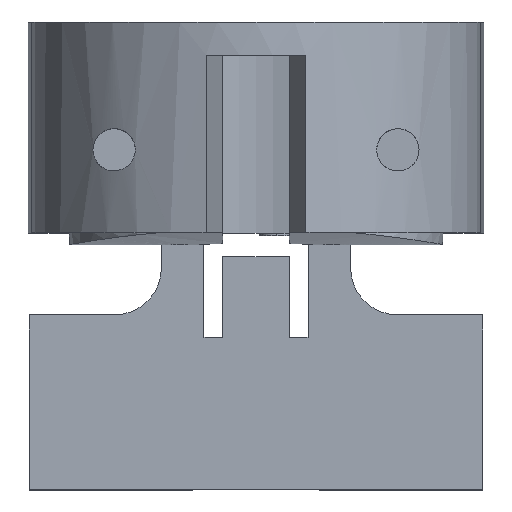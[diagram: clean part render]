
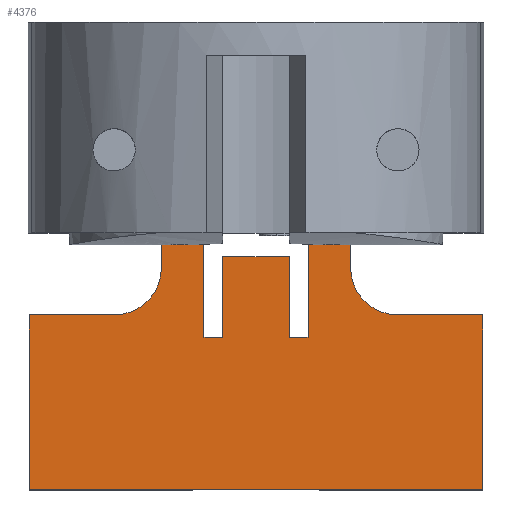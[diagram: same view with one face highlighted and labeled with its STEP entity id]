
A CAD part, top view. The second image highlights one B-rep face of the part: STEP entity #4376.
In plain terms, the highlighted planar face has unit normal (0, 0, 1).
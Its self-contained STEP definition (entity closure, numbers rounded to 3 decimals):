
#181=CARTESIAN_POINT(' ',(2.2,0.,-12.491));
#182=VERTEX_POINT(' ',#181);
#196=CARTESIAN_POINT(' ',(2.2,0.,-12.491));
#201=DIRECTION(' ',(1.,0.,0.));
#206=VECTOR(' ',#201,1.);
#211=LINE('',#196,#206);
#216=CARTESIAN_POINT(' ',(4.,0.,-12.491));
#217=VERTEX_POINT(' ',#216);
#221=EDGE_CURVE(' ',#182,#217,#211,.T.);
#1186=CARTESIAN_POINT(' ',(-4.,0.,-12.491));
#1187=VERTEX_POINT(' ',#1186);
#1201=CARTESIAN_POINT(' ',(-4.,0.,-12.491));
#1206=DIRECTION(' ',(1.,0.,0.));
#1211=VECTOR(' ',#1206,1.);
#1216=LINE('',#1201,#1211);
#1221=CARTESIAN_POINT(' ',(-2.2,0.,-12.491));
#1222=VERTEX_POINT(' ',#1221);
#1226=EDGE_CURVE(' ',#1187,#1222,#1216,.T.);
#3686=CARTESIAN_POINT(' ',(-2.2,-4.4,-12.491));
#3691=DIRECTION(' ',(0.,1.,0.));
#3696=VECTOR(' ',#3691,1.);
#3701=LINE('',#3686,#3696);
#3706=CARTESIAN_POINT(' ',(-2.2,-4.4,-12.491));
#3707=VERTEX_POINT(' ',#3706);
#3711=EDGE_CURVE(' ',#3707,#1222,#3701,.T.);
#3801=CARTESIAN_POINT(' ',(-9.6,-10.85,-12.491));
#3806=DIRECTION(' ',(0.,0.,1.));
#3811=DIRECTION(' ',(1.,0.,0.));
#3816=AXIS2_PLACEMENT_3D(' ',#3801,#3806,#3811);
#3821=PLANE(' ',#3816);
#3826=ORIENTED_EDGE(' ',*,*,#221,.F.);
#3831=CARTESIAN_POINT(' ',(2.2,0.,-12.491));
#3836=DIRECTION(' ',(0.,-1.,0.));
#3841=VECTOR(' ',#3836,1.);
#3846=LINE('',#3831,#3841);
#3851=CARTESIAN_POINT(' ',(2.2,-4.4,-12.491));
#3852=VERTEX_POINT(' ',#3851);
#3856=EDGE_CURVE(' ',#182,#3852,#3846,.T.);
#3861=ORIENTED_EDGE(' ',*,*,#3856,.T.);
#3866=CARTESIAN_POINT(' ',(2.2,-4.4,-12.491));
#3871=DIRECTION(' ',(-1.,0.,0.));
#3876=VECTOR(' ',#3871,1.);
#3881=LINE('',#3866,#3876);
#3886=CARTESIAN_POINT(' ',(1.4,-4.4,-12.491));
#3887=VERTEX_POINT(' ',#3886);
#3891=EDGE_CURVE(' ',#3852,#3887,#3881,.T.);
#3896=ORIENTED_EDGE(' ',*,*,#3891,.T.);
#3901=CARTESIAN_POINT(' ',(1.4,-4.4,-12.491));
#3906=DIRECTION(' ',(0.,1.,0.));
#3911=VECTOR(' ',#3906,1.);
#3916=LINE('',#3901,#3911);
#3921=CARTESIAN_POINT(' ',(1.4,-1.,-12.491));
#3922=VERTEX_POINT(' ',#3921);
#3926=EDGE_CURVE(' ',#3887,#3922,#3916,.T.);
#3931=ORIENTED_EDGE(' ',*,*,#3926,.T.);
#3936=CARTESIAN_POINT(' ',(1.4,-1.,-12.491));
#3941=DIRECTION(' ',(-1.,0.,0.));
#3946=VECTOR(' ',#3941,1.);
#3951=LINE('',#3936,#3946);
#3956=CARTESIAN_POINT(' ',(-1.4,-1.,-12.491));
#3957=VERTEX_POINT(' ',#3956);
#3961=EDGE_CURVE(' ',#3922,#3957,#3951,.T.);
#3966=ORIENTED_EDGE(' ',*,*,#3961,.T.);
#3971=CARTESIAN_POINT(' ',(-1.4,-1.,-12.491));
#3976=DIRECTION(' ',(0.,-1.,0.));
#3981=VECTOR(' ',#3976,1.);
#3986=LINE('',#3971,#3981);
#3991=CARTESIAN_POINT(' ',(-1.4,-4.4,-12.491));
#3992=VERTEX_POINT(' ',#3991);
#3996=EDGE_CURVE(' ',#3957,#3992,#3986,.T.);
#4001=ORIENTED_EDGE(' ',*,*,#3996,.T.);
#4006=CARTESIAN_POINT(' ',(-1.4,-4.4,-12.491));
#4011=DIRECTION(' ',(-1.,0.,0.));
#4016=VECTOR(' ',#4011,1.);
#4021=LINE('',#4006,#4016);
#4026=EDGE_CURVE(' ',#3992,#3707,#4021,.T.);
#4031=ORIENTED_EDGE(' ',*,*,#4026,.T.);
#4036=ORIENTED_EDGE(' ',*,*,#3711,.T.);
#4041=ORIENTED_EDGE(' ',*,*,#1226,.F.);
#4046=CARTESIAN_POINT(' ',(-4.,-1.45,-12.491));
#4051=DIRECTION(' ',(0.,1.,0.));
#4056=VECTOR(' ',#4051,1.);
#4061=LINE('',#4046,#4056);
#4066=CARTESIAN_POINT(' ',(-4.,-1.45,-12.491));
#4067=VERTEX_POINT(' ',#4066);
#4071=EDGE_CURVE(' ',#4067,#1187,#4061,.T.);
#4076=ORIENTED_EDGE(' ',*,*,#4071,.F.);
#4081=CARTESIAN_POINT(' ',(-6.,-1.45,-12.491));
#4086=DIRECTION(' ',(0.,0.,1.));
#4091=DIRECTION(' ',(0.,-1.,0.));
#4096=AXIS2_PLACEMENT_3D(' ',#4081,#4086,#4091);
#4101=CIRCLE('',#4096,2.);
#4106=CARTESIAN_POINT(' ',(-6.,-3.45,-12.491));
#4107=VERTEX_POINT(' ',#4106);
#4111=EDGE_CURVE(' ',#4107,#4067,#4101,.T.);
#4116=ORIENTED_EDGE(' ',*,*,#4111,.F.);
#4121=CARTESIAN_POINT(' ',(-9.6,-3.45,-12.491));
#4126=DIRECTION(' ',(1.,0.,0.));
#4131=VECTOR(' ',#4126,1.);
#4136=LINE('',#4121,#4131);
#4141=CARTESIAN_POINT(' ',(-9.6,-3.45,-12.491));
#4142=VERTEX_POINT(' ',#4141);
#4146=EDGE_CURVE(' ',#4142,#4107,#4136,.T.);
#4151=ORIENTED_EDGE(' ',*,*,#4146,.F.);
#4156=CARTESIAN_POINT(' ',(-9.6,-10.85,-12.491));
#4161=DIRECTION(' ',(0.,1.,0.));
#4166=VECTOR(' ',#4161,1.);
#4171=LINE('',#4156,#4166);
#4176=CARTESIAN_POINT(' ',(-9.6,-10.85,-12.491));
#4177=VERTEX_POINT(' ',#4176);
#4181=EDGE_CURVE(' ',#4177,#4142,#4171,.T.);
#4186=ORIENTED_EDGE(' ',*,*,#4181,.F.);
#4191=CARTESIAN_POINT(' ',(9.6,-10.85,-12.491));
#4196=DIRECTION(' ',(-1.,0.,0.));
#4201=VECTOR(' ',#4196,1.);
#4206=LINE('',#4191,#4201);
#4211=CARTESIAN_POINT(' ',(9.6,-10.85,-12.491));
#4212=VERTEX_POINT(' ',#4211);
#4216=EDGE_CURVE(' ',#4212,#4177,#4206,.T.);
#4221=ORIENTED_EDGE(' ',*,*,#4216,.F.);
#4226=CARTESIAN_POINT(' ',(9.6,-3.45,-12.491));
#4231=DIRECTION(' ',(0.,-1.,0.));
#4236=VECTOR(' ',#4231,1.);
#4241=LINE('',#4226,#4236);
#4246=CARTESIAN_POINT(' ',(9.6,-3.45,-12.491));
#4247=VERTEX_POINT(' ',#4246);
#4251=EDGE_CURVE(' ',#4247,#4212,#4241,.T.);
#4256=ORIENTED_EDGE(' ',*,*,#4251,.F.);
#4261=CARTESIAN_POINT(' ',(6.,-3.45,-12.491));
#4266=DIRECTION(' ',(1.,0.,0.));
#4271=VECTOR(' ',#4266,1.);
#4276=LINE('',#4261,#4271);
#4281=CARTESIAN_POINT(' ',(6.,-3.45,-12.491));
#4282=VERTEX_POINT(' ',#4281);
#4286=EDGE_CURVE(' ',#4282,#4247,#4276,.T.);
#4291=ORIENTED_EDGE(' ',*,*,#4286,.F.);
#4296=CARTESIAN_POINT(' ',(6.,-1.45,-12.491));
#4301=DIRECTION(' ',(0.,0.,1.));
#4306=DIRECTION(' ',(-1.,0.,0.));
#4311=AXIS2_PLACEMENT_3D(' ',#4296,#4301,#4306);
#4316=CIRCLE('',#4311,2.);
#4321=CARTESIAN_POINT(' ',(4.,-1.45,-12.491));
#4322=VERTEX_POINT(' ',#4321);
#4326=EDGE_CURVE(' ',#4322,#4282,#4316,.T.);
#4331=ORIENTED_EDGE(' ',*,*,#4326,.F.);
#4336=CARTESIAN_POINT(' ',(4.,0.,-12.491));
#4341=DIRECTION(' ',(0.,-1.,0.));
#4346=VECTOR(' ',#4341,1.);
#4351=LINE('',#4336,#4346);
#4356=EDGE_CURVE(' ',#217,#4322,#4351,.T.);
#4361=ORIENTED_EDGE(' ',*,*,#4356,.F.);
#4366=EDGE_LOOP(' ',(#3826,#3861,#3896,#3931,#3966,#4001,#4031,#4036,#4041,#4076,#4116,#4151,#4186,#4221,#4256,#4291,#4331,#4361));
#4371=FACE_OUTER_BOUND(' ',#4366,.T.);
#4376=ADVANCED_FACE('',(#4371),#3821,.T.);
